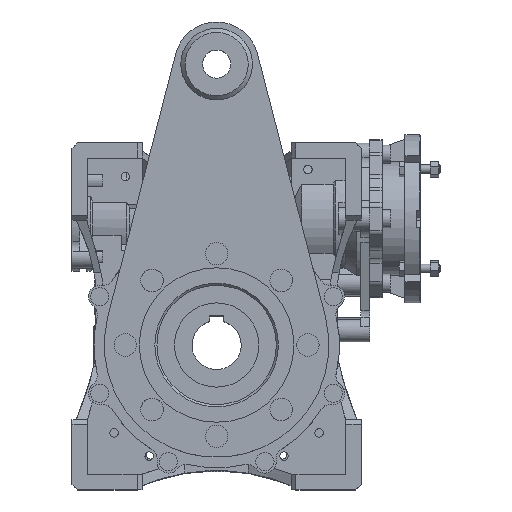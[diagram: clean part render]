
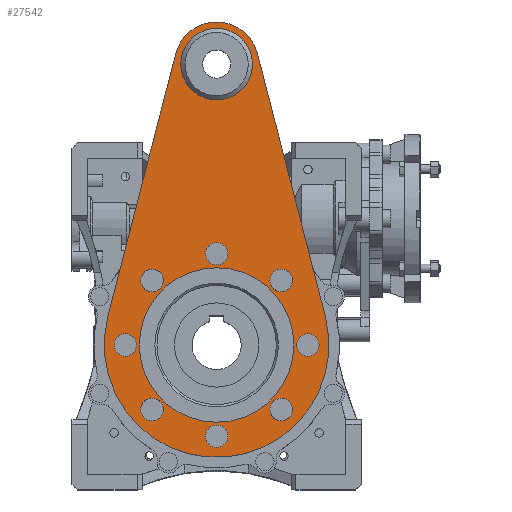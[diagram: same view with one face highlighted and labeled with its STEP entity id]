
A CAD part, top view. The second image highlights one B-rep face of the part: STEP entity #27542.
In plain terms, the highlighted planar face has unit normal (0, 0, 1).
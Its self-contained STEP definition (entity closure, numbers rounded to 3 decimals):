
#3415=LINE('',#47607,#5684);
#3420=LINE('',#47621,#5689);
#5684=VECTOR('',#38589,1000.);
#5689=VECTOR('',#38602,1000.);
#13472=ORIENTED_EDGE('',*,*,#17426,.T.);
#13473=ORIENTED_EDGE('',*,*,#17427,.T.);
#13474=ORIENTED_EDGE('',*,*,#17428,.T.);
#13475=ORIENTED_EDGE('',*,*,#17429,.T.);
#13476=ORIENTED_EDGE('',*,*,#17430,.T.);
#13477=ORIENTED_EDGE('',*,*,#17431,.T.);
#13478=ORIENTED_EDGE('',*,*,#17432,.T.);
#13479=ORIENTED_EDGE('',*,*,#17433,.T.);
#13480=ORIENTED_EDGE('',*,*,#17434,.T.);
#13481=ORIENTED_EDGE('',*,*,#17422,.F.);
#13482=ORIENTED_EDGE('',*,*,#17414,.T.);
#13483=ORIENTED_EDGE('',*,*,#17418,.T.);
#13484=ORIENTED_EDGE('',*,*,#17421,.T.);
#13485=ORIENTED_EDGE('',*,*,#17425,.T.);
#17414=EDGE_CURVE('',#20120,#20119,#3415,.T.);
#17418=EDGE_CURVE('',#20119,#20122,#21426,.T.);
#17421=EDGE_CURVE('',#20122,#20124,#3420,.T.);
#17422=EDGE_CURVE('',#20125,#20125,#21427,.T.);
#17425=EDGE_CURVE('',#20124,#20120,#21430,.T.);
#17426=EDGE_CURVE('',#20127,#20127,#21431,.F.);
#17427=EDGE_CURVE('',#20128,#20128,#21432,.F.);
#17428=EDGE_CURVE('',#20129,#20129,#21433,.F.);
#17429=EDGE_CURVE('',#20130,#20130,#21434,.F.);
#17430=EDGE_CURVE('',#20131,#20131,#21435,.F.);
#17431=EDGE_CURVE('',#20132,#20132,#21436,.F.);
#17432=EDGE_CURVE('',#20133,#20133,#21437,.F.);
#17433=EDGE_CURVE('',#20134,#20134,#21438,.F.);
#17434=EDGE_CURVE('',#20135,#20135,#21439,.T.);
#20119=VERTEX_POINT('',#47606);
#20120=VERTEX_POINT('',#47608);
#20122=VERTEX_POINT('',#47614);
#20124=VERTEX_POINT('',#47620);
#20125=VERTEX_POINT('',#47624);
#20127=VERTEX_POINT('',#47632);
#20128=VERTEX_POINT('',#47634);
#20129=VERTEX_POINT('',#47636);
#20130=VERTEX_POINT('',#47638);
#20131=VERTEX_POINT('',#47640);
#20132=VERTEX_POINT('',#47642);
#20133=VERTEX_POINT('',#47644);
#20134=VERTEX_POINT('',#47646);
#20135=VERTEX_POINT('',#47648);
#21426=CIRCLE('',#30484,80.);
#21427=CIRCLE('',#30487,55.);
#21430=CIRCLE('',#30491,30.);
#21431=CIRCLE('',#30493,8.);
#21432=CIRCLE('',#30494,8.);
#21433=CIRCLE('',#30495,8.);
#21434=CIRCLE('',#30496,8.);
#21435=CIRCLE('',#30497,8.);
#21436=CIRCLE('',#30498,8.);
#21437=CIRCLE('',#30499,8.);
#21438=CIRCLE('',#30500,8.);
#21439=CIRCLE('',#30501,25.5);
#23288=EDGE_LOOP('',(#13472));
#23289=EDGE_LOOP('',(#13473));
#23290=EDGE_LOOP('',(#13474));
#23291=EDGE_LOOP('',(#13475));
#23292=EDGE_LOOP('',(#13476));
#23293=EDGE_LOOP('',(#13477));
#23294=EDGE_LOOP('',(#13478));
#23295=EDGE_LOOP('',(#13479));
#23296=EDGE_LOOP('',(#13480));
#23297=EDGE_LOOP('',(#13481));
#23298=EDGE_LOOP('',(#13482,#13483,#13484,#13485));
#25189=FACE_BOUND('',#23288,.T.);
#25190=FACE_BOUND('',#23289,.T.);
#25191=FACE_BOUND('',#23290,.T.);
#25192=FACE_BOUND('',#23291,.T.);
#25193=FACE_BOUND('',#23292,.T.);
#25194=FACE_BOUND('',#23293,.T.);
#25195=FACE_BOUND('',#23294,.T.);
#25196=FACE_BOUND('',#23295,.T.);
#25197=FACE_BOUND('',#23296,.T.);
#25198=FACE_BOUND('',#23297,.T.);
#25199=FACE_BOUND('',#23298,.T.);
#26028=PLANE('',#30492);
#27542=ADVANCED_FACE('',(#25189,#25190,#25191,#25192,#25193,#25194,#25195,
#25196,#25197,#25198,#25199),#26028,.T.);
#30484=AXIS2_PLACEMENT_3D('',#47615,#38596,#38597);
#30487=AXIS2_PLACEMENT_3D('',#47623,#38605,#38606);
#30491=AXIS2_PLACEMENT_3D('',#47629,#38613,#38614);
#30492=AXIS2_PLACEMENT_3D('',#47630,#38615,#38616);
#30493=AXIS2_PLACEMENT_3D('',#47631,#38617,#38618);
#30494=AXIS2_PLACEMENT_3D('',#47633,#38619,#38620);
#30495=AXIS2_PLACEMENT_3D('',#47635,#38621,#38622);
#30496=AXIS2_PLACEMENT_3D('',#47637,#38623,#38624);
#30497=AXIS2_PLACEMENT_3D('',#47639,#38625,#38626);
#30498=AXIS2_PLACEMENT_3D('',#47641,#38627,#38628);
#30499=AXIS2_PLACEMENT_3D('',#47643,#38629,#38630);
#30500=AXIS2_PLACEMENT_3D('',#47645,#38631,#38632);
#30501=AXIS2_PLACEMENT_3D('',#47647,#38633,#38634);
#38589=DIRECTION('',(0.25,0.968,0.));
#38596=DIRECTION('',(0.,0.,1.));
#38597=DIRECTION('',(1.,0.,0.));
#38602=DIRECTION('',(0.25,-0.968,0.));
#38605=DIRECTION('',(0.,0.,1.));
#38606=DIRECTION('',(1.,0.,0.));
#38613=DIRECTION('',(0.,0.,1.));
#38614=DIRECTION('',(1.,0.,0.));
#38615=DIRECTION('',(0.,0.,1.));
#38616=DIRECTION('',(1.,0.,0.));
#38617=DIRECTION('',(0.,0.,1.));
#38618=DIRECTION('',(1.,0.,0.));
#38619=DIRECTION('',(0.,0.,1.));
#38620=DIRECTION('',(1.,0.,0.));
#38621=DIRECTION('',(0.,0.,1.));
#38622=DIRECTION('',(1.,0.,0.));
#38623=DIRECTION('',(0.,0.,1.));
#38624=DIRECTION('',(1.,0.,0.));
#38625=DIRECTION('',(0.,0.,1.));
#38626=DIRECTION('',(1.,0.,0.));
#38627=DIRECTION('',(0.,0.,1.));
#38628=DIRECTION('',(1.,0.,0.));
#38629=DIRECTION('',(0.,0.,1.));
#38630=DIRECTION('',(1.,0.,0.));
#38631=DIRECTION('',(0.,0.,1.));
#38632=DIRECTION('',(1.,0.,0.));
#38633=DIRECTION('',(0.,0.,-1.));
#38634=DIRECTION('',(-1.,0.,0.));
#47606=CARTESIAN_POINT('',(77.46,-20.,3.));
#47607=CARTESIAN_POINT('',(29.047,-207.5,3.));
#47608=CARTESIAN_POINT('',(29.047,-207.5,3.));
#47614=CARTESIAN_POINT('',(-77.46,-20.,3.));
#47615=CARTESIAN_POINT('',(0.,0.,3.));
#47620=CARTESIAN_POINT('',(-29.047,-207.5,3.));
#47621=CARTESIAN_POINT('',(-77.46,-20.,3.));
#47623=CARTESIAN_POINT('',(0.,0.,3.));
#47624=CARTESIAN_POINT('',(55.,0.,3.));
#47629=CARTESIAN_POINT('',(0.,-200.,3.));
#47630=CARTESIAN_POINT('',(0.,0.,3.));
#47631=CARTESIAN_POINT('',(-65.,0.,3.));
#47632=CARTESIAN_POINT('',(-57.,0.,3.));
#47633=CARTESIAN_POINT('',(-45.962,-45.962,3.));
#47634=CARTESIAN_POINT('',(-37.962,-45.962,3.));
#47635=CARTESIAN_POINT('',(0.,-65.,3.));
#47636=CARTESIAN_POINT('',(8.,-65.,3.));
#47637=CARTESIAN_POINT('',(45.962,-45.962,3.));
#47638=CARTESIAN_POINT('',(53.962,-45.962,3.));
#47639=CARTESIAN_POINT('',(65.,0.,3.));
#47640=CARTESIAN_POINT('',(73.,0.,3.));
#47641=CARTESIAN_POINT('',(45.962,45.962,3.));
#47642=CARTESIAN_POINT('',(53.962,45.962,3.));
#47643=CARTESIAN_POINT('',(-45.962,45.962,3.));
#47644=CARTESIAN_POINT('',(-37.962,45.962,3.));
#47645=CARTESIAN_POINT('',(0.,65.,3.));
#47646=CARTESIAN_POINT('',(8.,65.,3.));
#47647=CARTESIAN_POINT('',(0.,-200.,3.));
#47648=CARTESIAN_POINT('',(-25.5,-200.,3.));
